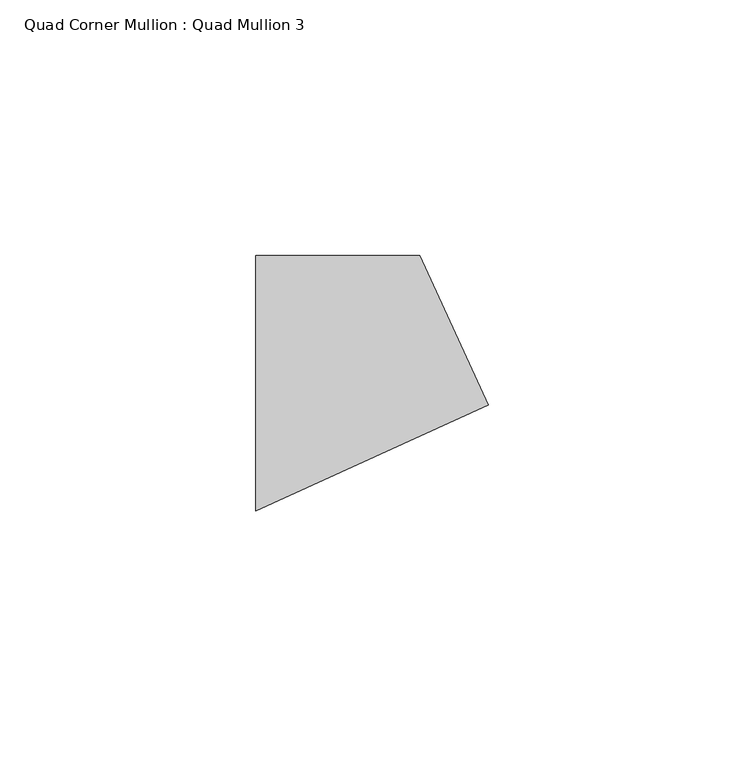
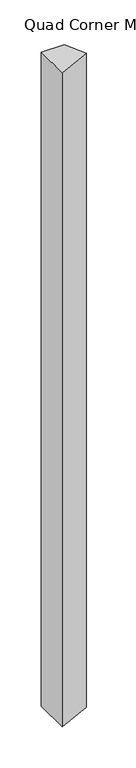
"""IFC4 building model written with IfcOpenShell, lengths in millimetres: member geometry, Quad Corner Mullion : Quad Mullion 3."""

from ifc_helpers import new_model, si_unit, frame, origin, place, context, project, spatial, polyline, outline, extrude, source, transform, mapped, element, save


def quad_corner_mullion_quad_mullion_3_c01584be(model_context):
    return source(origin(), model_context, "Body", "SweptSolid", [
        extrude(outline(polyline([(29.4125559, -4.1926582), (-16.0523154, -25.0), (-16.0523154, 25.0), (16.0523154, 25.0), (29.4125559, -4.1926582)])), frame((0.0, 0.0, -965.0), z_axis=(0.0, 0.0, 1.0), x_axis=(1.0, 0.0, 0.0)), (0.0, 0.0, 1.0), 965.0),
    ])


if __name__ == "__main__":
    model = new_model("IFC4")
    model_context = context("Model", 3, world=origin())
    ifc_project = project(units=[si_unit("LENGTHUNIT", "METRE", prefix="MILLI")], contexts=[model_context])
    site = spatial("IfcSite", under=ifc_project)
    building = spatial("IfcBuilding", under=site)
    placement = place(None, origin())
    quad_corner_mullion_quad_mullion_3_shape = quad_corner_mullion_quad_mullion_3_c01584be(model_context)
    element("IfcMember", 1, ObjectType="Quad Corner Mullion : Quad Mullion 3", at=placement, inside=building, context=model_context, shape_type="MappedRepresentation", body=[
        mapped(quad_corner_mullion_quad_mullion_3_shape, transform((0.0, 0.0, 0.0), x_axis=(1.0, 0.0, 0.0), y_axis=(0.0, 1.0, 0.0), z_axis=(0.0, 0.0, 1.0))),
    ])
    save(model, "model.ifc")
